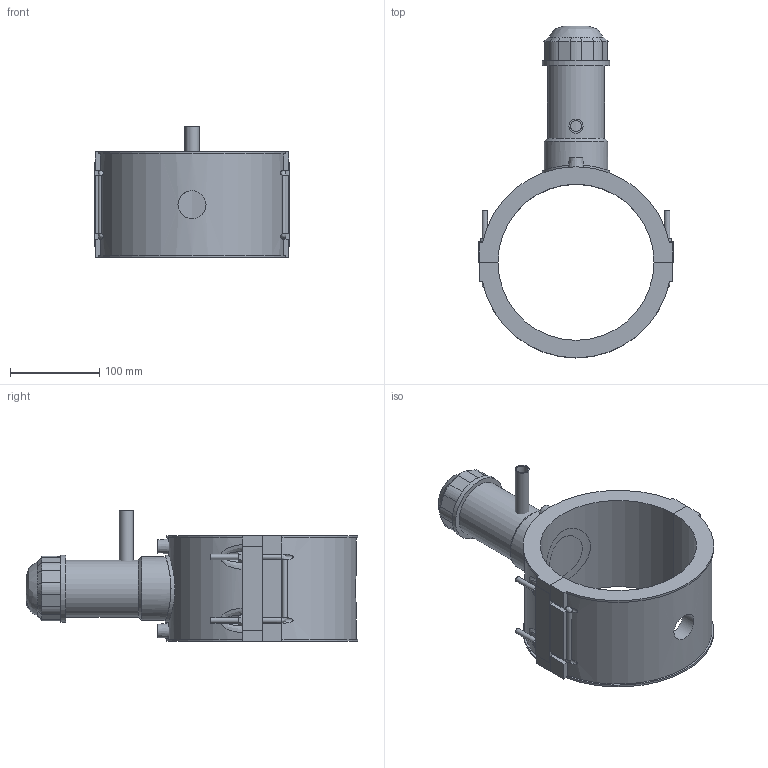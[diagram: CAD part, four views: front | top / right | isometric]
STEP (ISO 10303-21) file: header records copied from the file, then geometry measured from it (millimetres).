
FILE_DESCRIPTION(/* description */ ('PLASSON TAPPING SADDLE 6''''DIPS x 1/2''''CTS'),/* implementation_level */ '2;1');
FILE_NAME(/* name */ 'C:\Dropbox\KIMPROJECTS-Inventor 2019\99-16-3568-Processing Inch\ASTM ElectroFusion 2021\5963DBP_5963BUP\5963DUP3060005.ipt.stp',/* time_stamp */ '2021-08-30T09:59:00+03:00',/* author */ ('KIM'),/* organization */ (''),/* preprocessor_version */ 'ST-DEVELOPER v17.2',/* originating_system */ 'Autodesk Inventor 2019',/* authorisation */ '');
FILE_SCHEMA (('AUTOMOTIVE_DESIGN { 1 0 10303 214 3 1 1 }'));
Length unit declared in the file: inch
Products named in the file (1): 5963DUP3060005
Bounding box: 217.9 x 371.08 x 146.43 mm (x, y, z)
Volume: 1642420.3 mm3; surface area: 266829.1 mm2
Topology: 3 solids, 3 shells, 200 faces, 521 edges, 340 vertices
Faces by surface type: plane 125, cylinder 51, cone 15, bspline 9
Full cylindrical faces by diameter (mm): 4 x2, 6 x8, 10 x2, 12.64 x1, 15.8 x1, 31.36 x1, 52.524 x1, 63.78 x1, 71.283 x1, 75.035 x2
Entity records: 7416 total; most frequent: CARTESIAN_POINT 2469, ORIENTED_EDGE 1042, DIRECTION 976, EDGE_CURVE 521, VERTEX_POINT 340, AXIS2_PLACEMENT_3D 330, LINE 316, VECTOR 316
